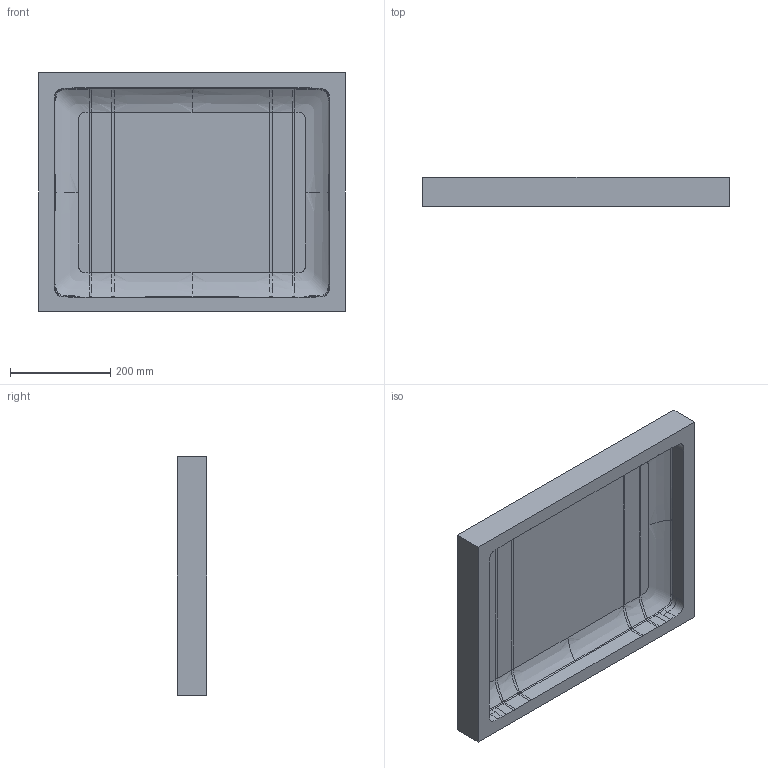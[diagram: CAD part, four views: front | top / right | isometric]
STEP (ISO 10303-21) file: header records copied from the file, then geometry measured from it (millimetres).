
FILE_DESCRIPTION (( 'STEP AP214' ), '1' );
FILE_NAME ('1607 Top Tub.STEP', '2019-02-13T21:50:51', ( '' ), ( '' ), 'SwSTEP 2.0', 'SolidWorks 2016', '' );
FILE_SCHEMA (( 'AUTOMOTIVE_DESIGN' ));
Length unit declared in the file: inch
Products named in the file (1): 1607 Top Tub
Bounding box: 611.32 x 58.8 x 476.1 mm (x, y, z)
Volume: 5969486.6 mm3; surface area: 776664.4 mm2
Topology: 1 solids, 1 shells, 111 faces, 286 edges, 178 vertices
Faces by surface type: bspline 64, plane 23, cylinder 16, torus 8
Entity records: 10684 total; most frequent: CARTESIAN_POINT 8544, ORIENTED_EDGE 572, EDGE_CURVE 286, DIRECTION 236, VERTEX_POINT 178, B_SPLINE_CURVE_WITH_KNOTS 174, EDGE_LOOP 112, ADVANCED_FACE 111
